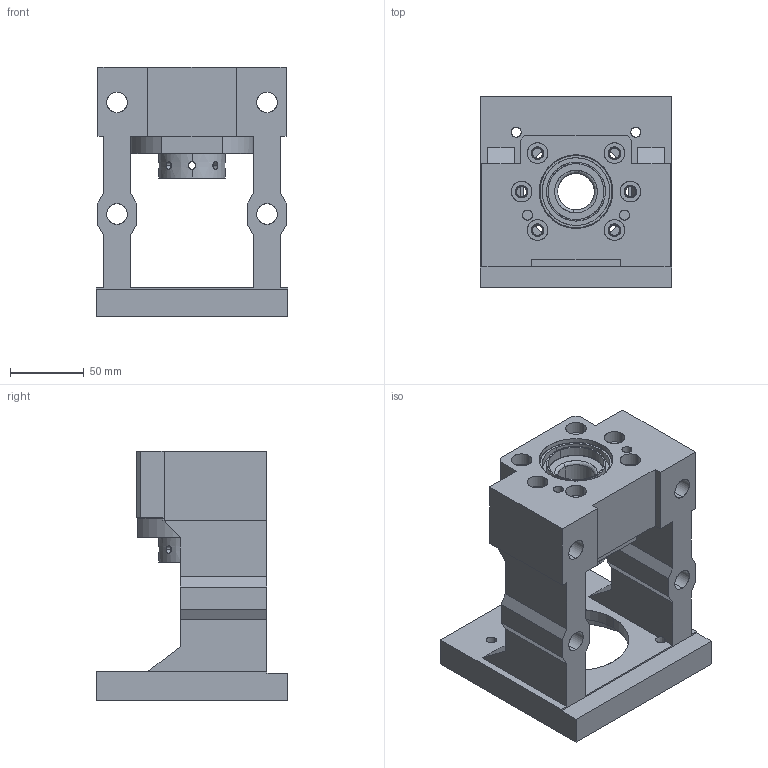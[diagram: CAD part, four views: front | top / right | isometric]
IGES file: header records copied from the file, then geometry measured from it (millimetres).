
Start section: SolidWorks IGES file using analytic representation for surfaces
Global section: file name: C:\Users\117\Desktop\MBCS25-YP.IGS; native system: SolidWorks 2018; preprocessor: SolidWorks 2018; author: 117; date: 211028.160446; units: millimetre
Bounding box: 130 x 130 x 170 mm (x, y, z)
Surface area: 151730.6 mm2 (no closed solid volume)
Topology: 0 solids, 0 shells, 237 faces, 5182 edges, 5178 vertices
Faces by surface type: revolution 147, bspline 90
